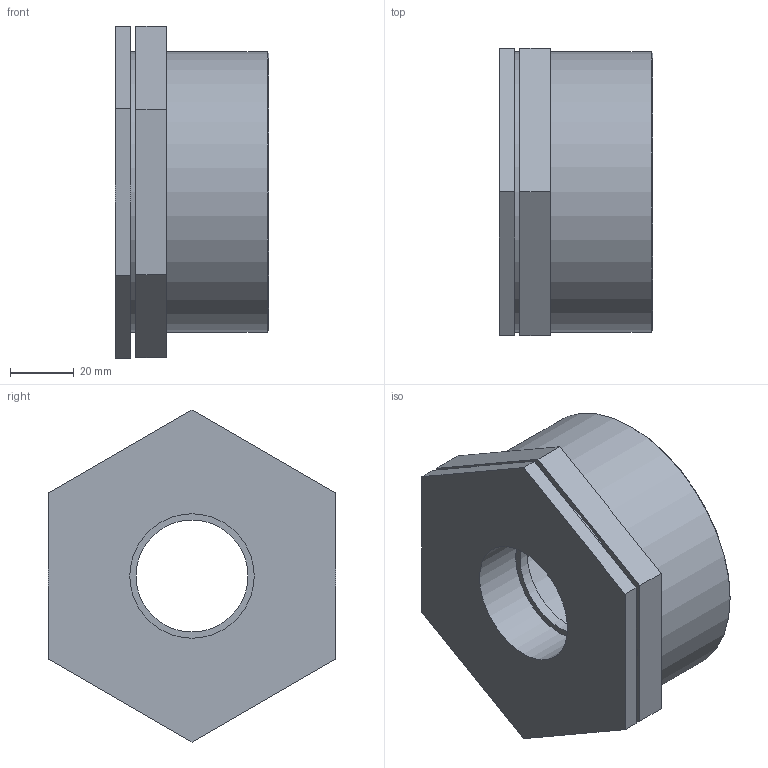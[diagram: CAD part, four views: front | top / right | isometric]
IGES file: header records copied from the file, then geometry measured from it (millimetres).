
Global section: file name: 050207030013_0502070300130A.ipt; native system: Autodesk Inventor 2015; preprocessor: unknown; author: KIM; date: 20170618.093145; units: millimetre
Bounding box: 48 x 90 x 103.92 mm (x, y, z)
Volume: 131461.6 mm3; surface area: 38039.5 mm2
Topology: 1 solids, 1 shells, 27 faces, 62 edges, 43 vertices
Faces by surface type: plane 20, revolution 4, cylinder 2, cone 1
Full cylindrical faces by diameter (mm): 87.884 x2
